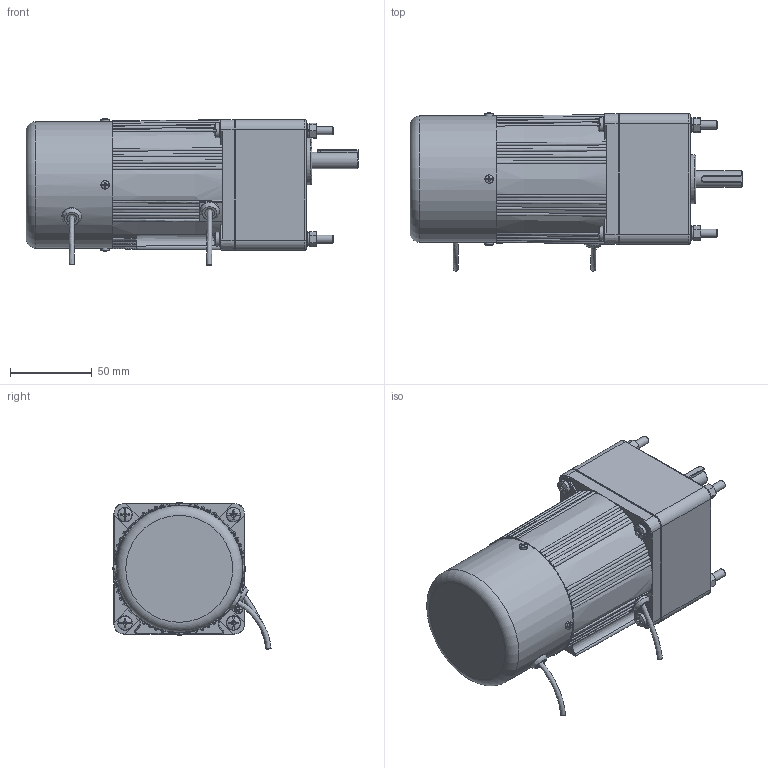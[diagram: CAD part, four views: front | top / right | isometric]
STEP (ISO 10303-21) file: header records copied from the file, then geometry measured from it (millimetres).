
FILE_DESCRIPTION(/* description */ (''),/* implementation_level */ '2;1');
FILE_NAME(/* name */ '4RK25-30CC·M-4GN25-750K-C·10T.stp',/* time_stamp */ '2024-11-02T14:57:15+08:00',/* author */ (''),/* organization */ (''),/* preprocessor_version */ 'ST-DEVELOPER v18.102',/* originating_system */ 'SIEMENS PLM Software NX 2027',/* authorisation */ '');
FILE_SCHEMA (('AP203_CONFIGURATION_CONTROLLED_3D_DESIGN_OF_MECHANICAL_PARTS_AND_ASSEMBLIES_MIM_LF { 1 0 10303 403 2 1 2}'));
Length unit declared in the file: millimetre
Products named in the file (1): 4RK25-30CC-4GN25-750K-C·10T_stp_YF803C9CA68Eb85x
Bounding box: 203.5 x 96.94 x 90.03 mm (x, y, z)
Volume: 910016.6 mm3; surface area: 97929.4 mm2
Topology: 22 solids, 22 shells, 986 faces, 2505 edges, 1617 vertices
Faces by surface type: plane 340, bspline 299, cylinder 157, cone 123, torus 47, sphere 20
Full cylindrical faces by diameter (mm): 4 x1, 4.351 x4, 4.4 x1, 4.6 x4, 5 x5, 5.1 x4, 5.3 x8, 6 x11, 6.5 x4, 8 x1, 8.2 x1, 8.5 x4, 9 x8, 10 x1, 10.5 x1, 19 x1, 26 x1, 30 x1, 56 x1, 67 x1, 73 x1, 75 x2, 77.5 x1
Entity records: 37787 total; most frequent: CARTESIAN_POINT 16851, ORIENTED_EDGE 4644, DIRECTION 2934, EDGE_CURVE 2322, VERTEX_POINT 1559, B_SPLINE_CURVE_WITH_KNOTS 1301, AXIS2_PLACEMENT_3D 1232, EDGE_LOOP 1201
